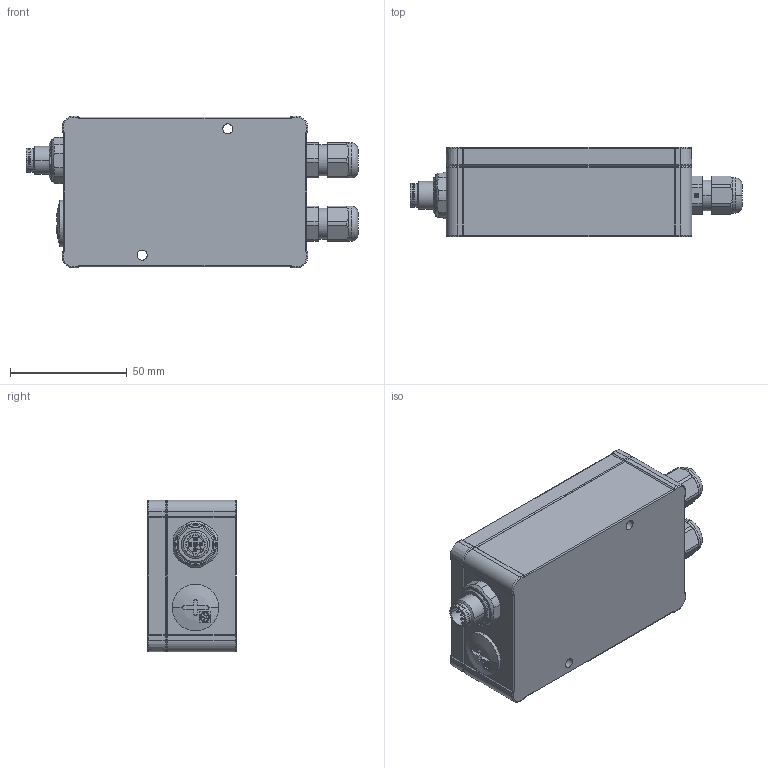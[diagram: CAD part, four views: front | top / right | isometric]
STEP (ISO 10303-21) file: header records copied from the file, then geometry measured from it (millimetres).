
FILE_DESCRIPTION((''),'2;1');
FILE_NAME('0000205244_SW0001','2020-03-02T11:37:57',('11000775'),(''),'CREO PARAMETRIC BY PTC INC, 2019030','CREO PARAMETRIC BY PTC INC, 2019030','');
FILE_SCHEMA(('AUTOMOTIVE_DESIGN { 1 0 10303 214 1 1 1 1 }'));
Length unit declared in the file: millimetre
Products named in the file (1): 0000205244_SW0001
Bounding box: 141.98 x 38 x 65 mm (x, y, z)
Volume: 257894.5 mm3; surface area: 31650.2 mm2
Topology: 1 solids, 1 shells, 628 faces, 1516 edges, 928 vertices
Faces by surface type: plane 221, cylinder 199, cone 126, torus 79, sphere 3
Entity records: 31586 total; most frequent: CARTESIAN_POINT 5633, DIRECTION 3306, ORIENTED_EDGE 3032, PRESENTATION_STYLE_ASSIGNMENT 2149, STYLED_ITEM 1521, CURVE_STYLE 1520, EDGE_CURVE 1516, AXIS2_PLACEMENT_3D 1295
